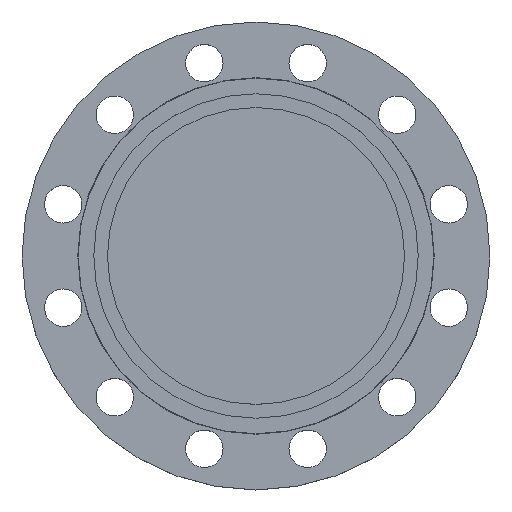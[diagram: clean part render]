
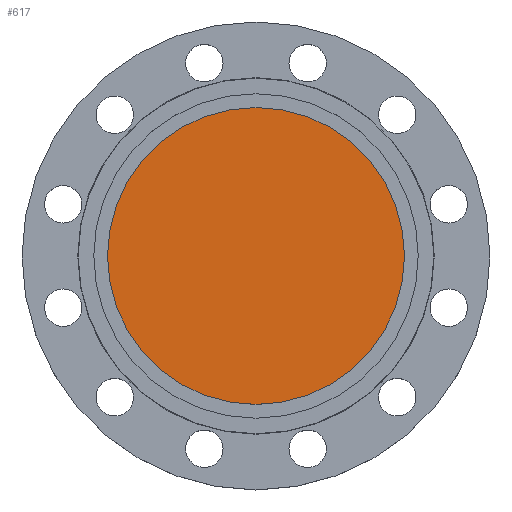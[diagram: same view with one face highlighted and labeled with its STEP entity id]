
A CAD part, top view. The second image highlights one B-rep face of the part: STEP entity #617.
In plain terms, the highlighted planar face has unit normal (0, 0, 1).
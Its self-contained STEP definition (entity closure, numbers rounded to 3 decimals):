
#49 = CARTESIAN_POINT ( 'NONE',  ( -119., 0., 0. ) ) ;
#153 = CARTESIAN_POINT ( 'NONE',  ( 119., 0., 0. ) ) ;
#231 = DIRECTION ( 'NONE',  ( -1., 0., 0. ) ) ;
#232 = DIRECTION ( 'NONE',  ( 0., 0., -1. ) ) ;
#235 = CARTESIAN_POINT ( 'NONE',  ( 0., 0., 0. ) ) ;
#449 = DIRECTION ( 'NONE',  ( -1., 0., 0. ) ) ;
#450 = DIRECTION ( 'NONE',  ( 0., 0., -1. ) ) ;
#451 = CARTESIAN_POINT ( 'NONE',  ( 0., 0., 0. ) ) ;
#617 = ADVANCED_FACE ( 'NONE', ( #648 ), #647, .T. ) ;
#643 = DIRECTION ( 'NONE',  ( 1., 0., 0. ) ) ;
#644 = DIRECTION ( 'NONE',  ( 0., 0., 1. ) ) ;
#646 = CARTESIAN_POINT ( 'NONE',  ( 0., 0., 0. ) ) ;
#647 = PLANE ( 'NONE',  #1043 ) ;
#648 = FACE_OUTER_BOUND ( 'NONE', #1496, .T. ) ;
#877 = EDGE_CURVE ( 'NONE', #1360, #1295, #1139, .T. ) ;
#1009 = AXIS2_PLACEMENT_3D ( 'NONE', #235, #232, #231 ) ;
#1043 = AXIS2_PLACEMENT_3D ( 'NONE', #646, #644, #643 ) ;
#1116 = CIRCLE ( 'NONE', #1009, 119. ) ;
#1137 = AXIS2_PLACEMENT_3D ( 'NONE', #451, #450, #449 ) ;
#1139 = CIRCLE ( 'NONE', #1137, 119. ) ;
#1180 = EDGE_CURVE ( 'NONE', #1295, #1360, #1116, .T. ) ;
#1285 = ORIENTED_EDGE ( 'NONE', *, *, #877, .F. ) ;
#1286 = ORIENTED_EDGE ( 'NONE', *, *, #1180, .F. ) ;
#1295 = VERTEX_POINT ( 'NONE', #153 ) ;
#1360 = VERTEX_POINT ( 'NONE', #49 ) ;
#1496 = EDGE_LOOP ( 'NONE', ( #1285, #1286 ) ) ;
